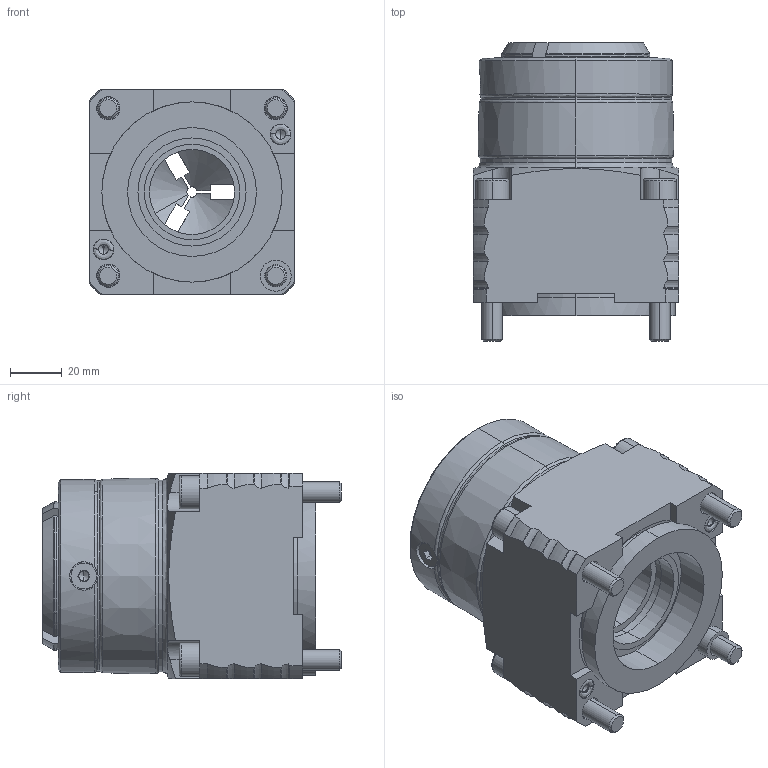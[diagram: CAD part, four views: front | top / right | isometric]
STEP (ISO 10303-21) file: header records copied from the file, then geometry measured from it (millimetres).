
FILE_DESCRIPTION (( 'STEP AP203' ), '1' );
FILE_NAME ('HYDROK_RD_Gr32_1121_0029.STEP', '2012-12-17T13:51:13', ( '' ), ( '' ), 'SwSTEP 2.0', 'SolidWorks 2010', '' );
FILE_SCHEMA (( 'CONFIG_CONTROL_DESIGN' ));
Length unit declared in the file: millimetre
Products named in the file (1): HYDROK_RD_Gr32_1121_0029
Bounding box: 79.8 x 116 x 79.8 mm (x, y, z)
Volume: 438283.9 mm3; surface area: 103218.7 mm2
Topology: 12 solids, 13 shells, 491 faces, 1248 edges, 780 vertices
Faces by surface type: plane 173, cylinder 135, bspline 95, cone 78, torus 10
Entity records: 17602 total; most frequent: CARTESIAN_POINT 6324, ORIENTED_EDGE 2432, DIRECTION 2214, EDGE_CURVE 1216, AXIS2_PLACEMENT_3D 860, VERTEX_POINT 780, EDGE_LOOP 548, VECTOR 494
